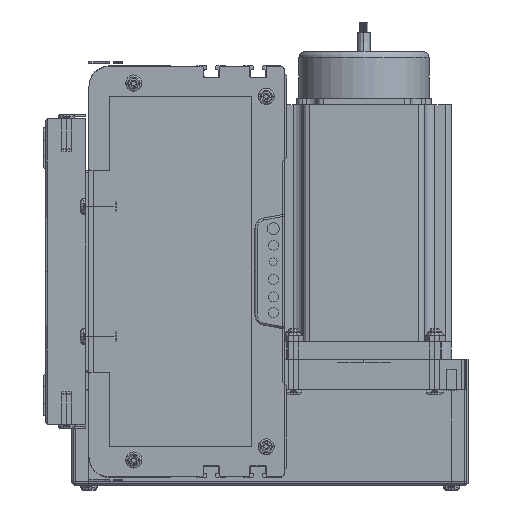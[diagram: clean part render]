
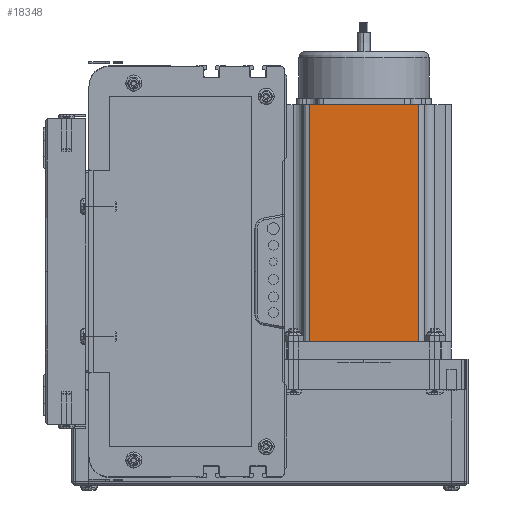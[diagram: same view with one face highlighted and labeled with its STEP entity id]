
A CAD part, left-side view. The second image highlights one B-rep face of the part: STEP entity #18348.
In plain terms, the highlighted planar face has unit normal (-1, 0, 0) as drawn and (0, -1, 0) by its records, which use the part's own axes.
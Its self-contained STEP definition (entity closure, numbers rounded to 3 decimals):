
#18267 = ORIENTED_EDGE ( 'NONE', *, *, #18271, .T. ) ;
#18269 = ORIENTED_EDGE ( 'NONE', *, *, #18352, .F. ) ;
#18271 = EDGE_CURVE ( 'NONE', #18373, #18369, #128776, .T. ) ;
#18273 = VERTEX_POINT ( 'NONE', #128765 ) ;
#18348 = ADVANCED_FACE ( 'NONE', ( #129080 ), #129607, .F. ) ;
#18349 = ORIENTED_EDGE ( 'NONE', *, *, #18383, .T. ) ;
#18351 = ORIENTED_EDGE ( 'NONE', *, *, #18368, .T. ) ;
#18352 = EDGE_CURVE ( 'NONE', #18373, #18273, #129233, .T. ) ;
#18368 = EDGE_CURVE ( 'NONE', #18417, #18273, #129937, .T. ) ;
#18369 = VERTEX_POINT ( 'NONE', #129940 ) ;
#18373 = VERTEX_POINT ( 'NONE', #129729 ) ;
#18382 = EDGE_LOOP ( 'NONE', ( #18349, #18351, #18269, #18267 ) ) ;
#18383 = EDGE_CURVE ( 'NONE', #18369, #18417, #130061, .T. ) ;
#18417 = VERTEX_POINT ( 'NONE', #129861 ) ;
#128759 = DIRECTION ( 'NONE',  ( 0., 0., -1. ) ) ;
#128765 = CARTESIAN_POINT ( 'NONE',  ( 69.74, 0., 116.5 ) ) ;
#128773 = VECTOR ( 'NONE', #128759, 1000. ) ;
#128775 = CARTESIAN_POINT ( 'NONE',  ( 16.16, 0., 116.5 ) ) ;
#128776 = LINE ( 'NONE', #128775, #128773 ) ;
#128990 = CARTESIAN_POINT ( 'NONE',  ( 0., 0., 116.5 ) ) ;
#129066 = DIRECTION ( 'NONE',  ( 0., 0., 1. ) ) ;
#129080 = FACE_OUTER_BOUND ( 'NONE', #18382, .T. ) ;
#129128 = DIRECTION ( 'NONE',  ( 0., 1., 0. ) ) ;
#129219 = DIRECTION ( 'NONE',  ( 1., 0., 0. ) ) ;
#129221 = VECTOR ( 'NONE', #129219, 1000. ) ;
#129230 = CARTESIAN_POINT ( 'NONE',  ( 0., 0., 116.5 ) ) ;
#129233 = LINE ( 'NONE', #129230, #129221 ) ;
#129590 = AXIS2_PLACEMENT_3D ( 'NONE', #128990, #129128, #129066 ) ;
#129607 = PLANE ( 'NONE',  #129590 ) ;
#129729 = CARTESIAN_POINT ( 'NONE',  ( 16.16, 0., 116.5 ) ) ;
#129861 = CARTESIAN_POINT ( 'NONE',  ( 69.74, 0., 0. ) ) ;
#129937 = LINE ( 'NONE', #130120, #130109 ) ;
#129940 = CARTESIAN_POINT ( 'NONE',  ( 16.16, 0., 0. ) ) ;
#130061 = LINE ( 'NONE', #130069, #130067 ) ;
#130066 = DIRECTION ( 'NONE',  ( 1., 0., 0. ) ) ;
#130067 = VECTOR ( 'NONE', #130066, 1000. ) ;
#130069 = CARTESIAN_POINT ( 'NONE',  ( 0., 0., 0. ) ) ;
#130102 = DIRECTION ( 'NONE',  ( 0., 0., 1. ) ) ;
#130109 = VECTOR ( 'NONE', #130102, 1000. ) ;
#130120 = CARTESIAN_POINT ( 'NONE',  ( 69.74, 0., 116.5 ) ) ;
